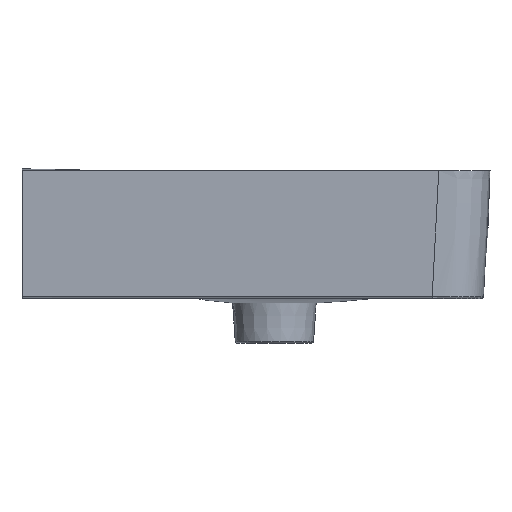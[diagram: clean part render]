
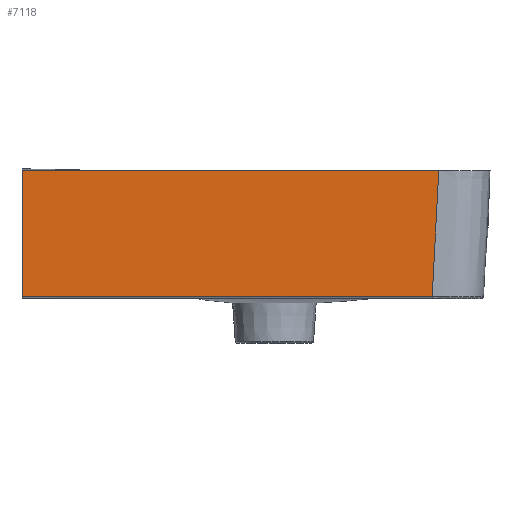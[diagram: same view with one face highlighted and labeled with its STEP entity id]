
A CAD part, front view. The second image highlights one B-rep face of the part: STEP entity #7118.
In plain terms, the highlighted planar face has unit normal (0, -1, -0.026).
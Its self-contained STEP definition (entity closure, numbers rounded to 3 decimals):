
#5731=CARTESIAN_POINT('Vertex',(141.603,-222.04,-3.052)) ;
#5941=CARTESIAN_POINT('Vertex',(147.512,-224.997,109.903)) ;
#5945=CARTESIAN_POINT('Control Point',(147.512,-224.997,109.903)) ;
#5946=CARTESIAN_POINT('Control Point',(147.507,-224.99,109.608)) ;
#5947=CARTESIAN_POINT('Control Point',(147.501,-224.981,109.276)) ;
#5948=CARTESIAN_POINT('Control Point',(147.495,-224.972,108.929)) ;
#5949=CARTESIAN_POINT('Control Point',(147.083,-224.386,86.551)) ;
#5950=CARTESIAN_POINT('Control Point',(146.288,-223.8,64.186)) ;
#5951=CARTESIAN_POINT('Control Point',(145.129,-223.222,42.086)) ;
#5952=CARTESIAN_POINT('Control Point',(143.582,-222.638,19.805)) ;
#5953=CARTESIAN_POINT('Control Point',(141.655,-222.055,-2.45)) ;
#5954=CARTESIAN_POINT('Control Point',(141.638,-222.05,-2.651)) ;
#5955=CARTESIAN_POINT('Control Point',(141.62,-222.045,-2.852)) ;
#5956=CARTESIAN_POINT('Control Point',(141.603,-222.04,-3.052)) ;
#6183=CARTESIAN_POINT('Vertex',(-106.,-224.999,109.957)) ;
#6187=CARTESIAN_POINT('Control Point',(-106.,-224.999,109.957)) ;
#6188=CARTESIAN_POINT('Control Point',(-56.103,-224.996,109.841)) ;
#6189=CARTESIAN_POINT('Control Point',(-5.601,-224.995,109.801)) ;
#6190=CARTESIAN_POINT('Control Point',(45.227,-224.995,109.805)) ;
#6191=CARTESIAN_POINT('Control Point',(96.288,-224.996,109.842)) ;
#6192=CARTESIAN_POINT('Control Point',(147.512,-224.997,109.903)) ;
#7072=CARTESIAN_POINT('Line Origine',(-19.189,-222.04,-3.052)) ;
#7076=CARTESIAN_POINT('Vertex',(-226.5,-222.04,-3.052)) ;
#7091=CARTESIAN_POINT('Axis2P3D Location',(-266.791,-225.,110.)) ;
#7096=CARTESIAN_POINT('Line Origine',(-226.5,-223.521,53.506)) ;
#7100=CARTESIAN_POINT('Vertex',(-226.5,-225.002,110.064)) ;
#7104=CARTESIAN_POINT('Control Point',(-226.5,-225.002,110.064)) ;
#7105=CARTESIAN_POINT('Control Point',(-202.4,-225.001,110.042)) ;
#7106=CARTESIAN_POINT('Control Point',(-178.3,-225.001,110.021)) ;
#7107=CARTESIAN_POINT('Control Point',(-154.2,-225.,110.)) ;
#7108=CARTESIAN_POINT('Control Point',(-130.1,-224.999,109.978)) ;
#7109=CARTESIAN_POINT('Control Point',(-106.,-224.999,109.957)) ;
#7073=DIRECTION('Vector Direction',(-1.,0.,0.)) ;
#7092=DIRECTION('Axis2P3D Direction',(-0.,1.,0.026)) ;
#7093=DIRECTION('Axis2P3D XDirection',(1.,0.,0.)) ;
#7097=DIRECTION('Vector Direction',(0.,0.026,-1.)) ;
#7094=AXIS2_PLACEMENT_3D('Plane Axis2P3D',#7091,#7092,#7093) ;
#7112=ORIENTED_EDGE('',*,*,#7102,.T.) ;
#7113=ORIENTED_EDGE('',*,*,#7078,.T.) ;
#7114=ORIENTED_EDGE('',*,*,#5957,.F.) ;
#7115=ORIENTED_EDGE('',*,*,#6193,.F.) ;
#7116=ORIENTED_EDGE('',*,*,#7110,.F.) ;
#7074=VECTOR('Line Direction',#7073,1.) ;
#7098=VECTOR('Line Direction',#7097,1.) ;
#7118=ADVANCED_FACE('Hauptk\X2\00F6\X0\rper',(#7117),#7095,.F.) ;
#6186=B_SPLINE_CURVE_WITH_KNOTS('',5,(#6187,#6188,#6189,#6190,#6191,#6192),.UNSPECIFIED.,.F.,.U.,(6,6),(0.,369.904),.UNSPECIFIED.) ;
#7103=B_SPLINE_CURVE_WITH_KNOTS('',5,(#7104,#7105,#7106,#7107,#7108,#7109),.UNSPECIFIED.,.F.,.U.,(6,6),(0.,170.423),.UNSPECIFIED.) ;
#5957=EDGE_CURVE('',#5942,#5732,#5944,.T.) ;
#6193=EDGE_CURVE('',#6184,#5942,#6186,.T.) ;
#7078=EDGE_CURVE('',#7077,#5732,#7075,.F.) ;
#7102=EDGE_CURVE('',#7101,#7077,#7099,.T.) ;
#7110=EDGE_CURVE('',#7101,#6184,#7103,.T.) ;
#7111=EDGE_LOOP('',(#7112,#7113,#7114,#7115,#7116)) ;
#7117=FACE_OUTER_BOUND('',#7111,.T.) ;
#7075=LINE('Line',#7072,#7074) ;
#7099=LINE('Line',#7096,#7098) ;
#7095=PLANE('Plane',#7094) ;
#5732=VERTEX_POINT('',#5731) ;
#5942=VERTEX_POINT('',#5941) ;
#6184=VERTEX_POINT('',#6183) ;
#7077=VERTEX_POINT('',#7076) ;
#7101=VERTEX_POINT('',#7100) ;
#5944=(BOUNDED_CURVE()B_SPLINE_CURVE(5,(#5945,#5946,#5947,#5948,#5949,#5950,#5951,#5952,#5953,#5954,#5955,#5956),.UNSPECIFIED.,.F.,.U.)B_SPLINE_CURVE_WITH_KNOTS((6,3,3,6),(33.057,34.82,193.578,195.024),.UNSPECIFIED.)CURVE()GEOMETRIC_REPRESENTATION_ITEM()RATIONAL_B_SPLINE_CURVE((1.,1.,1.,1.,1.,1.,1.,1.,1.,1.,1.,1.))REPRESENTATION_ITEM('')) ;
